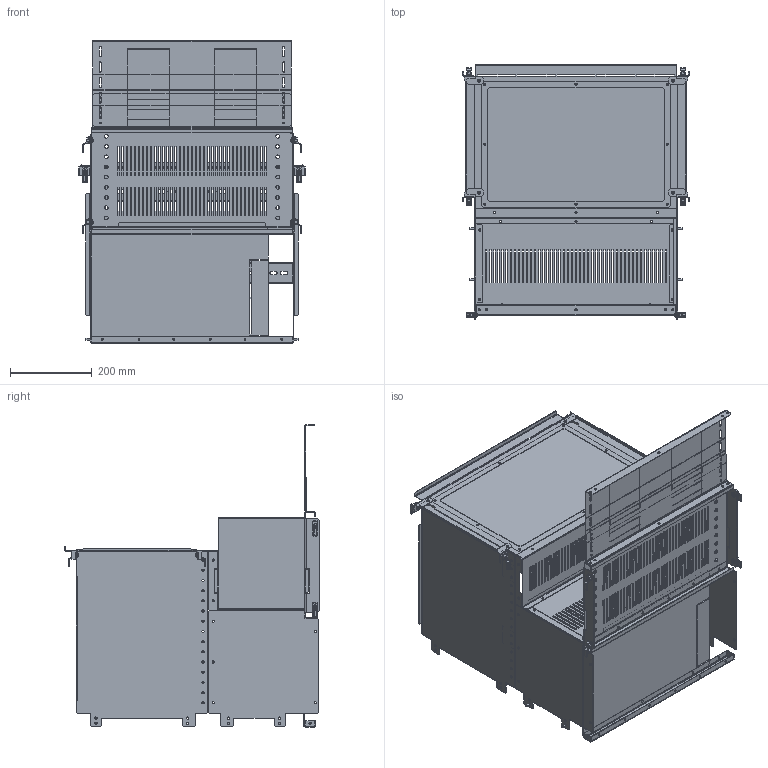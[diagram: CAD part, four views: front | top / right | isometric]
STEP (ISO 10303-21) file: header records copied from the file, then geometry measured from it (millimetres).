
FILE_DESCRIPTION(('CAx-IF Rec.Pracs.---Model Styling and Organization---1.2---2011-12-15','CAx-IF Rec.Pracs.---Geometric and Assembly Validation Properties---4.1---2014-06-16','CAx-IF Rec.Pracs.---PMI Polyline Presentation---2.0---2013-05-24'),'2;1');
FILE_NAME('R5FCMR66046 (F).stp','2021-05-06T02:38:20+03:00',(''),(''),'STEP Interface 4.4 by CT CoreTechnologie','3D_Evolution4.4 by CT CoreTechnologie','');
FILE_SCHEMA(('AUTOMOTIVE_DESIGN { 1 0 10303 214 1 1 1 1 }'));
Length unit declared in the file: millimetre
Products named in the file (21): R5FCMR66046 (F); M6x16-DIN 7985 ISR_thread; M5x12-DIN7500C_stright; RB.0696.00.00.1_-00; RB.0700.00.00.1_-01; AC00C485; RB.0697.00.00.1_-01; RB.0705.00.00.1_-01; RB.0699.00.00.1_-01; RB.0707.00.00.1_-01; RB.1165.00.00.0_-01; RB.0546.00.00.0_-01; RB.0705.00.00.1_-05; RB.0695.00.00.1_-00; RB.0546.00.00.0_-00; RB.0694.00.00.1_-00; RB.0706.00.00.1_-01; RB.0698.00.00.1_-01; RB.0691.00.00.1_-00; RB.0706.00.00.1_-03; RB.0708.00.00.1_-00
Assembly tree (40 placements, depth 2):
  R5FCMR66046 (F)
    M6x16-DIN 7985 ISR_thread  x8
    M5x12-DIN7500C_stright  x4
    RB.0696.00.00.1_-00  x2
    RB.0700.00.00.1_-01
    AC00C485  x8
    RB.0697.00.00.1_-01
    RB.0705.00.00.1_-01
    RB.0699.00.00.1_-01
    RB.0707.00.00.1_-01
    RB.1165.00.00.0_-01
    RB.0546.00.00.0_-01  x2
    RB.0705.00.00.1_-05
    RB.0695.00.00.1_-00
    RB.0546.00.00.0_-00  x2
    RB.0694.00.00.1_-00
    RB.0706.00.00.1_-01
    RB.0698.00.00.1_-01
    RB.0691.00.00.1_-00
    RB.0706.00.00.1_-03
    RB.0708.00.00.1_-00
Bounding box: 555.5 x 624 x 741 mm (x, y, z)
Surface area: 2972301 mm2 (no closed solid volume)
Topology: 0 solids, 58 shells, 2877 faces, 7887 edges, 5094 vertices
Faces by surface type: plane 1857, cylinder 896, bspline 124
Entity records: 69166 total; most frequent: CARTESIAN_POINT 12393, ORIENTED_EDGE 11576, DIRECTION 10922, EDGE_CURVE 5788, VECTOR 4718, LINE 4718, VERTEX_POINT 3801, AXIS2_PLACEMENT_3D 3102
